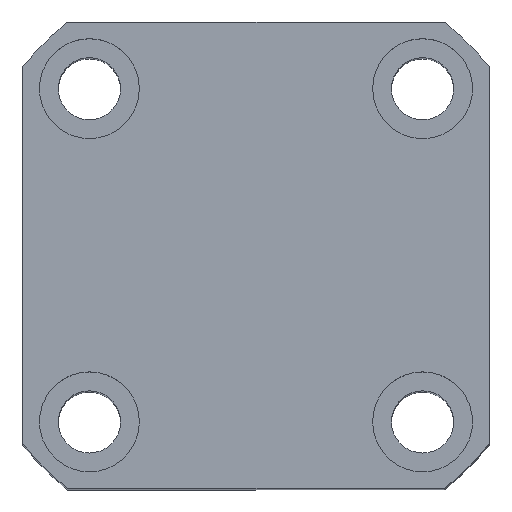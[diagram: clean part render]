
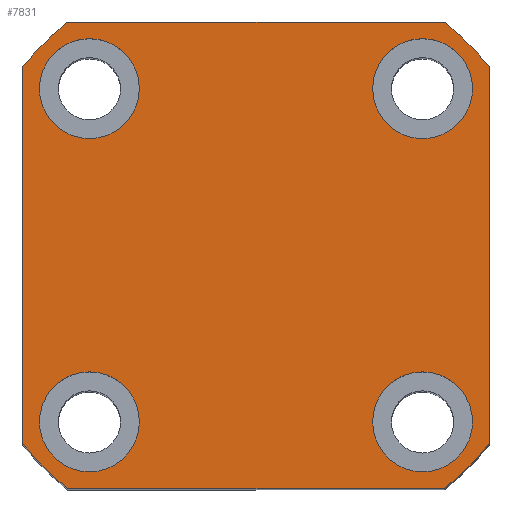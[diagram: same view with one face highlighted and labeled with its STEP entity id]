
A CAD part, top view. The second image highlights one B-rep face of the part: STEP entity #7831.
In plain terms, the highlighted planar face has unit normal (0, 0, 1).
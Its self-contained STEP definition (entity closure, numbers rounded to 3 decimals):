
#26 = PLANE ( 'NONE',  #8582 ) ;
#134 = CARTESIAN_POINT ( 'NONE',  ( 0., 0., 78. ) ) ;
#186 = CIRCLE ( 'NONE', #8177, 27. ) ;
#211 = VERTEX_POINT ( 'NONE', #2561 ) ;
#232 = CARTESIAN_POINT ( 'NONE',  ( -19.5, 15.002, 78. ) ) ;
#310 = FACE_BOUND ( 'NONE', #1974, .T. ) ;
#312 = EDGE_CURVE ( 'NONE', #10568, #9391, #1649, .T. ) ;
#347 = CIRCLE ( 'NONE', #8759, 4.5 ) ;
#390 = EDGE_CURVE ( 'NONE', #9391, #10568, #9611, .T. ) ;
#503 = VERTEX_POINT ( 'NONE', #232 ) ;
#578 = ORIENTED_EDGE ( 'NONE', *, *, #6289, .F. ) ;
#871 = DIRECTION ( 'NONE',  ( 0., 0., 1. ) ) ;
#890 = CARTESIAN_POINT ( 'NONE',  ( 16.971, 21., 78. ) ) ;
#975 = DIRECTION ( 'NONE',  ( 1., 0., 0. ) ) ;
#998 = AXIS2_PLACEMENT_3D ( 'NONE', #1402, #7140, #2225 ) ;
#1079 = AXIS2_PLACEMENT_3D ( 'NONE', #6066, #1125, #6868 ) ;
#1125 = DIRECTION ( 'NONE',  ( 0., 0., 1. ) ) ;
#1146 = AXIS2_PLACEMENT_3D ( 'NONE', #4657, #5458, #6803 ) ;
#1259 = EDGE_LOOP ( 'NONE', ( #8280, #4428, #7029, #2913, #10031, #7380, #5077, #5585 ) ) ;
#1281 = CARTESIAN_POINT ( 'NONE',  ( -21., 16.971, 78. ) ) ;
#1318 = EDGE_CURVE ( 'NONE', #10390, #4409, #7951, .T. ) ;
#1387 = EDGE_LOOP ( 'NONE', ( #7286, #1997 ) ) ;
#1402 = CARTESIAN_POINT ( 'NONE',  ( 0., 0., 78. ) ) ;
#1479 = CARTESIAN_POINT ( 'NONE',  ( 21., -16.971, 78. ) ) ;
#1513 = DIRECTION ( 'NONE',  ( 0., 0., 1. ) ) ;
#1569 = CIRCLE ( 'NONE', #7905, 4.5 ) ;
#1649 = CIRCLE ( 'NONE', #8507, 4.5 ) ;
#1741 = EDGE_CURVE ( 'NONE', #9239, #9711, #8319, .T. ) ;
#1871 = CIRCLE ( 'NONE', #8043, 4.5 ) ;
#1974 = EDGE_LOOP ( 'NONE', ( #3590, #2514 ) ) ;
#1989 = CIRCLE ( 'NONE', #3374, 4.5 ) ;
#1997 = ORIENTED_EDGE ( 'NONE', *, *, #390, .F. ) ;
#2066 = AXIS2_PLACEMENT_3D ( 'NONE', #9187, #4265, #9972 ) ;
#2138 = VERTEX_POINT ( 'NONE', #5104 ) ;
#2225 = DIRECTION ( 'NONE',  ( 1., 0., 0. ) ) ;
#2234 = VERTEX_POINT ( 'NONE', #9531 ) ;
#2358 = CARTESIAN_POINT ( 'NONE',  ( 21., 16.971, 78. ) ) ;
#2479 = LINE ( 'NONE', #10394, #2748 ) ;
#2500 = FACE_BOUND ( 'NONE', #3188, .T. ) ;
#2514 = ORIENTED_EDGE ( 'NONE', *, *, #2564, .F. ) ;
#2520 = DIRECTION ( 'NONE',  ( 1., 0., 0. ) ) ;
#2561 = CARTESIAN_POINT ( 'NONE',  ( 19.5, 15., 78. ) ) ;
#2564 = EDGE_CURVE ( 'NONE', #503, #4433, #347, .T. ) ;
#2584 = CARTESIAN_POINT ( 'NONE',  ( -10.5, 15.002, 78. ) ) ;
#2748 = VECTOR ( 'NONE', #4666, 1000. ) ;
#2913 = ORIENTED_EDGE ( 'NONE', *, *, #4347, .T. ) ;
#2933 = DIRECTION ( 'NONE',  ( 0., 0., 1. ) ) ;
#2987 = CARTESIAN_POINT ( 'NONE',  ( -10.5, -14.998, 78. ) ) ;
#3188 = EDGE_LOOP ( 'NONE', ( #9449, #4560 ) ) ;
#3374 = AXIS2_PLACEMENT_3D ( 'NONE', #9642, #4755, #10437 ) ;
#3590 = ORIENTED_EDGE ( 'NONE', *, *, #9496, .F. ) ;
#3731 = CARTESIAN_POINT ( 'NONE',  ( 15., -14.998, 78. ) ) ;
#3780 = VECTOR ( 'NONE', #4274, 1000. ) ;
#3853 = DIRECTION ( 'NONE',  ( 0., 0., 1. ) ) ;
#4036 = CIRCLE ( 'NONE', #998, 27. ) ;
#4155 = DIRECTION ( 'NONE',  ( 0., 0., 1. ) ) ;
#4162 = CIRCLE ( 'NONE', #2066, 4.5 ) ;
#4265 = DIRECTION ( 'NONE',  ( 0., 0., 1. ) ) ;
#4274 = DIRECTION ( 'NONE',  ( -1., 0., 0. ) ) ;
#4289 = VERTEX_POINT ( 'NONE', #4956 ) ;
#4347 = EDGE_CURVE ( 'NONE', #2138, #9239, #9939, .T. ) ;
#4381 = CARTESIAN_POINT ( 'NONE',  ( -21., -16.971, 78. ) ) ;
#4409 = VERTEX_POINT ( 'NONE', #890 ) ;
#4428 = ORIENTED_EDGE ( 'NONE', *, *, #1318, .T. ) ;
#4433 = VERTEX_POINT ( 'NONE', #2584 ) ;
#4539 = DIRECTION ( 'NONE',  ( 1., 0., 0. ) ) ;
#4560 = ORIENTED_EDGE ( 'NONE', *, *, #6457, .F. ) ;
#4597 = AXIS2_PLACEMENT_3D ( 'NONE', #4711, #7036, #8690 ) ;
#4657 = CARTESIAN_POINT ( 'NONE',  ( -15., -14.998, 78. ) ) ;
#4666 = DIRECTION ( 'NONE',  ( 0., 1., 0. ) ) ;
#4711 = CARTESIAN_POINT ( 'NONE',  ( 0., 0., 78. ) ) ;
#4755 = DIRECTION ( 'NONE',  ( 0., 0., 1. ) ) ;
#4793 = EDGE_CURVE ( 'NONE', #10422, #10598, #6008, .T. ) ;
#4809 = EDGE_CURVE ( 'NONE', #211, #8778, #1871, .T. ) ;
#4935 = VERTEX_POINT ( 'NONE', #1479 ) ;
#4945 = FACE_BOUND ( 'NONE', #1387, .T. ) ;
#4956 = CARTESIAN_POINT ( 'NONE',  ( 19.5, -14.998, 78. ) ) ;
#5077 = ORIENTED_EDGE ( 'NONE', *, *, #4793, .T. ) ;
#5104 = CARTESIAN_POINT ( 'NONE',  ( -16.971, 21., 78. ) ) ;
#5332 = EDGE_LOOP ( 'NONE', ( #578, #7795 ) ) ;
#5458 = DIRECTION ( 'NONE',  ( 0., 0., 1. ) ) ;
#5477 = CARTESIAN_POINT ( 'NONE',  ( -15., -14.998, 78. ) ) ;
#5487 = AXIS2_PLACEMENT_3D ( 'NONE', #9095, #4155, #9875 ) ;
#5539 = EDGE_CURVE ( 'NONE', #10598, #4935, #186, .T. ) ;
#5585 = ORIENTED_EDGE ( 'NONE', *, *, #5539, .T. ) ;
#5707 = CARTESIAN_POINT ( 'NONE',  ( -16.971, -21., 78. ) ) ;
#5804 = CARTESIAN_POINT ( 'NONE',  ( 0., 0., 78. ) ) ;
#5919 = DIRECTION ( 'NONE',  ( 0., 0., 1. ) ) ;
#6008 = LINE ( 'NONE', #7889, #8166 ) ;
#6066 = CARTESIAN_POINT ( 'NONE',  ( -15., 15.002, 78. ) ) ;
#6289 = EDGE_CURVE ( 'NONE', #4289, #2234, #1989, .T. ) ;
#6420 = VECTOR ( 'NONE', #8597, 1000. ) ;
#6457 = EDGE_CURVE ( 'NONE', #8778, #211, #4162, .T. ) ;
#6626 = DIRECTION ( 'NONE',  ( 1., 0., 0. ) ) ;
#6803 = DIRECTION ( 'NONE',  ( 1., 0., 0. ) ) ;
#6868 = DIRECTION ( 'NONE',  ( 1., 0., 0. ) ) ;
#6871 = FACE_BOUND ( 'NONE', #5332, .T. ) ;
#7029 = ORIENTED_EDGE ( 'NONE', *, *, #9586, .T. ) ;
#7036 = DIRECTION ( 'NONE',  ( 0., 0., 1. ) ) ;
#7140 = DIRECTION ( 'NONE',  ( 0., 0., 1. ) ) ;
#7268 = CARTESIAN_POINT ( 'NONE',  ( -19.5, -14.998, 78. ) ) ;
#7286 = ORIENTED_EDGE ( 'NONE', *, *, #312, .F. ) ;
#7380 = ORIENTED_EDGE ( 'NONE', *, *, #8505, .T. ) ;
#7545 = CARTESIAN_POINT ( 'NONE',  ( -21., 21., 78. ) ) ;
#7795 = ORIENTED_EDGE ( 'NONE', *, *, #9557, .F. ) ;
#7831 = ADVANCED_FACE ( 'NONE', ( #310, #4945, #6871, #2500, #8808 ), #26, .T. ) ;
#7880 = LINE ( 'NONE', #7545, #3780 ) ;
#7889 = CARTESIAN_POINT ( 'NONE',  ( -21., -21., 78. ) ) ;
#7905 = AXIS2_PLACEMENT_3D ( 'NONE', #3731, #9445, #4539 ) ;
#7951 = CIRCLE ( 'NONE', #4597, 27. ) ;
#8043 = AXIS2_PLACEMENT_3D ( 'NONE', #8760, #3853, #9559 ) ;
#8166 = VECTOR ( 'NONE', #8732, 1000. ) ;
#8177 = AXIS2_PLACEMENT_3D ( 'NONE', #5804, #871, #6626 ) ;
#8280 = ORIENTED_EDGE ( 'NONE', *, *, #9870, .T. ) ;
#8319 = LINE ( 'NONE', #8627, #6420 ) ;
#8393 = CIRCLE ( 'NONE', #1079, 4.5 ) ;
#8505 = EDGE_CURVE ( 'NONE', #9711, #10422, #4036, .T. ) ;
#8507 = AXIS2_PLACEMENT_3D ( 'NONE', #5477, #1513, #2520 ) ;
#8582 = AXIS2_PLACEMENT_3D ( 'NONE', #134, #5919, #975 ) ;
#8597 = DIRECTION ( 'NONE',  ( 0., -1., 0. ) ) ;
#8627 = CARTESIAN_POINT ( 'NONE',  ( -21., 21., 78. ) ) ;
#8690 = DIRECTION ( 'NONE',  ( 1., 0., 0. ) ) ;
#8732 = DIRECTION ( 'NONE',  ( 1., 0., 0. ) ) ;
#8756 = CARTESIAN_POINT ( 'NONE',  ( 16.971, -21., 78. ) ) ;
#8759 = AXIS2_PLACEMENT_3D ( 'NONE', #9852, #2933, #9768 ) ;
#8760 = CARTESIAN_POINT ( 'NONE',  ( 15., 15., 78. ) ) ;
#8778 = VERTEX_POINT ( 'NONE', #8903 ) ;
#8808 = FACE_OUTER_BOUND ( 'NONE', #1259, .T. ) ;
#8903 = CARTESIAN_POINT ( 'NONE',  ( 10.5, 15., 78. ) ) ;
#9095 = CARTESIAN_POINT ( 'NONE',  ( 0., 0., 78. ) ) ;
#9187 = CARTESIAN_POINT ( 'NONE',  ( 15., 15., 78. ) ) ;
#9239 = VERTEX_POINT ( 'NONE', #1281 ) ;
#9391 = VERTEX_POINT ( 'NONE', #7268 ) ;
#9445 = DIRECTION ( 'NONE',  ( 0., 0., 1. ) ) ;
#9449 = ORIENTED_EDGE ( 'NONE', *, *, #4809, .F. ) ;
#9496 = EDGE_CURVE ( 'NONE', #4433, #503, #8393, .T. ) ;
#9531 = CARTESIAN_POINT ( 'NONE',  ( 10.5, -14.998, 78. ) ) ;
#9557 = EDGE_CURVE ( 'NONE', #2234, #4289, #1569, .T. ) ;
#9559 = DIRECTION ( 'NONE',  ( 1., 0., 0. ) ) ;
#9586 = EDGE_CURVE ( 'NONE', #4409, #2138, #7880, .T. ) ;
#9611 = CIRCLE ( 'NONE', #1146, 4.5 ) ;
#9642 = CARTESIAN_POINT ( 'NONE',  ( 15., -14.998, 78. ) ) ;
#9711 = VERTEX_POINT ( 'NONE', #4381 ) ;
#9768 = DIRECTION ( 'NONE',  ( 1., 0., 0. ) ) ;
#9852 = CARTESIAN_POINT ( 'NONE',  ( -15., 15.002, 78. ) ) ;
#9870 = EDGE_CURVE ( 'NONE', #4935, #10390, #2479, .T. ) ;
#9875 = DIRECTION ( 'NONE',  ( 1., 0., 0. ) ) ;
#9939 = CIRCLE ( 'NONE', #5487, 27. ) ;
#9972 = DIRECTION ( 'NONE',  ( 1., 0., 0. ) ) ;
#10031 = ORIENTED_EDGE ( 'NONE', *, *, #1741, .T. ) ;
#10390 = VERTEX_POINT ( 'NONE', #2358 ) ;
#10394 = CARTESIAN_POINT ( 'NONE',  ( 21., 21., 78. ) ) ;
#10422 = VERTEX_POINT ( 'NONE', #5707 ) ;
#10437 = DIRECTION ( 'NONE',  ( 1., 0., 0. ) ) ;
#10568 = VERTEX_POINT ( 'NONE', #2987 ) ;
#10598 = VERTEX_POINT ( 'NONE', #8756 ) ;
